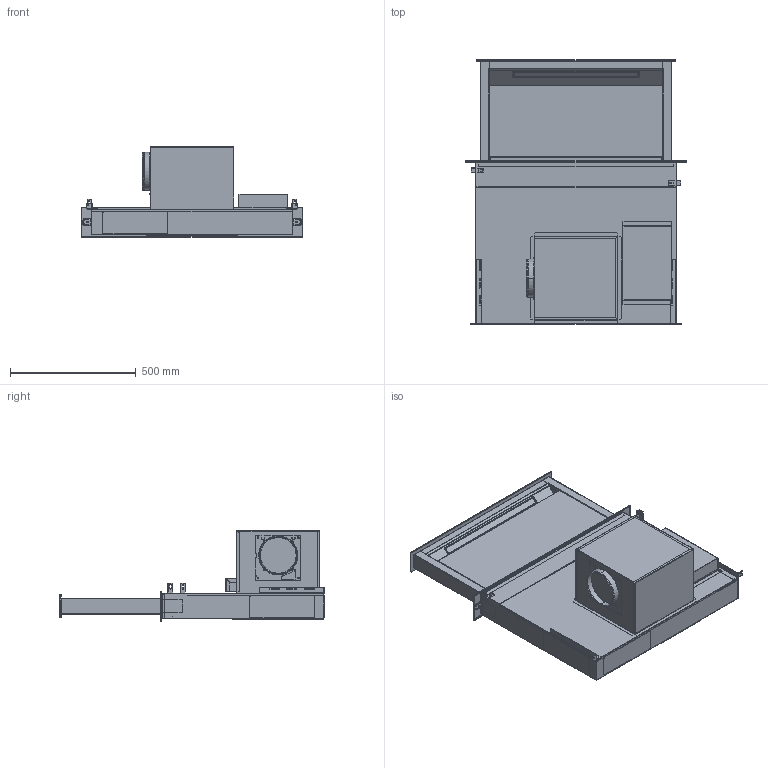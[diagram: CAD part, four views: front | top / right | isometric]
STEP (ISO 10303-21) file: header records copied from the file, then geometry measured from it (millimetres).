
FILE_DESCRIPTION((''),'2;1');
FILE_NAME('28A_710_ASM','2016-05-04T',('BD037'),(''),'PRO/ENGINEER BY PARAMETRIC TECHNOLOGY CORPORATION, 2014200','PRO/ENGINEER BY PARAMETRIC TECHNOLOGY CORPORATION, 2014200','');
FILE_SCHEMA(('CONFIG_CONTROL_DESIGN'));
Products named in the file (41): 28A_001; 28A_004; 28A_021; 28A_032; 28A_711_ASM; 28A_002; 28A_715_ASM; 188_126; 188_127; 188_822_ASM; A18_362; SCR_004; 188_823_ASM; 28A_003; 28A_006; 28A_007; 28A_008; 28A_010; 28A_713_ASM; 28A_011; 28A_731_ASM; 180_055; 180_056; 180_066; 180_067; 28A_022; 187_052; 28A_009; 28A_013; 28A_014; 28A_712_ASM; 28A_023; 28A_099; 28A_100; 28A_768_ASM; CME_ESTR_FARETTO_LED_FISSO_L500; CME_LAT-FIX-DX-FH-02; CME_LAT-FIX-SX-FH-02; CME_VETRO_FARETTO_LED_L500; CME_FARETTO_LED_FISSO_L500_ASM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
Assembly tree (47 placements, depth 4):
  28A_710_ASM
    28A_711_ASM
      28A_001
      28A_004
      28A_021  x2
      28A_032
    28A_715_ASM
      28A_002
    188_823_ASM
      188_822_ASM
        188_126
        188_127
      A18_362
      SCR_004  x4
    28A_003
    28A_713_ASM
      28A_006
      28A_007
      28A_008
      28A_010
    28A_731_ASM
      28A_011
    180_055
    180_056
    180_066
    180_067
    28A_022
    187_052  x2
    28A_009
    28A_712_ASM
      28A_013
      28A_014
    28A_023  x3
    28A_768_ASM
      28A_099
      28A_100
    CME_FARETTO_LED_FISSO_L500_ASM
      CME_ESTR_FARETTO_LED_FISSO_L500
      CME_LAT-FIX-DX-FH-02
      CME_LAT-FIX-SX-FH-02
      CME_VETRO_FARETTO_LED_L500
Bounding box: 880 x 1053.2 x 360.4 mm (x, y, z)
Volume: 4052488.2 mm3; surface area: 7092660.9 mm2
Topology: 38 solids, 38 shells, 2621 faces, 6481 edges, 3912 vertices
Faces by surface type: plane 1626, cylinder 715, bspline 132, torus 74, cone 34, sphere 28, extrusion 12
Entity records: 68316 total; most frequent: CARTESIAN_POINT 19354, DIRECTION 10221, ORIENTED_EDGE 9966, EDGE_CURVE 4983, AXIS2_PLACEMENT_3D 3478, VECTOR 3265, LINE 3253, VERTEX_POINT 2985
